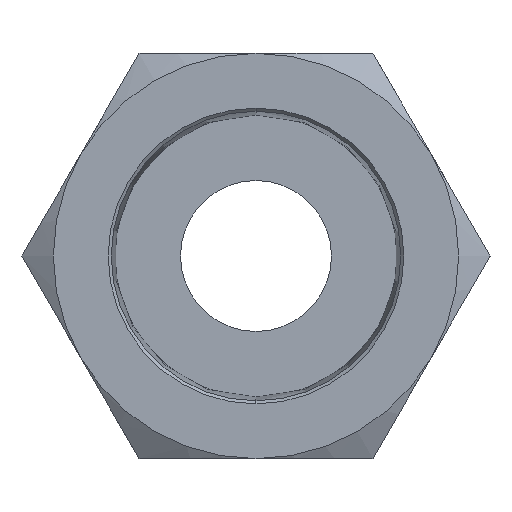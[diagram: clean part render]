
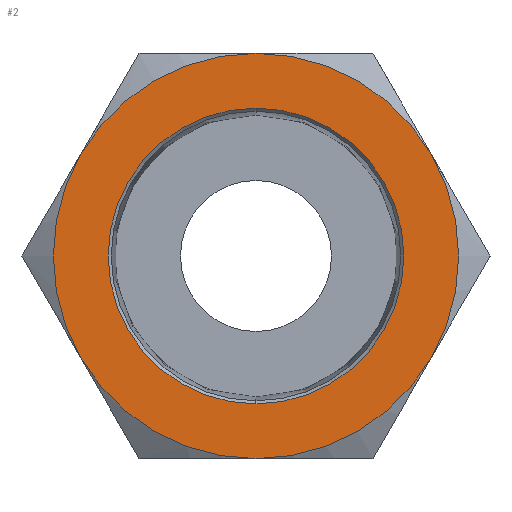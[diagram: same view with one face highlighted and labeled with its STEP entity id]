
A CAD part, left-side view. The second image highlights one B-rep face of the part: STEP entity #2.
In plain terms, the highlighted planar face has unit normal (-1, 0, 0).
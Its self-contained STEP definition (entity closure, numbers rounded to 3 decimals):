
#2 = ADVANCED_FACE ( 'NONE', ( #491, #490 ), #488, .F. ) ;
#3 = ORIENTED_EDGE ( 'NONE', *, *, #4, .F. ) ;
#4 = EDGE_CURVE ( 'NONE', #1562, #1559, #307, .T. ) ;
#5 = ORIENTED_EDGE ( 'NONE', *, *, #1561, .F. ) ;
#6 = EDGE_LOOP ( 'NONE', ( #7, #1516, #245, #247, #24, #26 ) ) ;
#7 = ORIENTED_EDGE ( 'NONE', *, *, #1515, .F. ) ;
#13 = EDGE_LOOP ( 'NONE', ( #3, #5 ) ) ;
#15 = VERTEX_POINT ( 'NONE', #294 ) ;
#24 = ORIENTED_EDGE ( 'NONE', *, *, #25, .T. ) ;
#25 = EDGE_CURVE ( 'NONE', #1624, #1530, #470, .T. ) ;
#26 = ORIENTED_EDGE ( 'NONE', *, *, #27, .F. ) ;
#27 = EDGE_CURVE ( 'NONE', #1678, #1530, #411, .T. ) ;
#245 = ORIENTED_EDGE ( 'NONE', *, *, #246, .F. ) ;
#246 = EDGE_CURVE ( 'NONE', #1523, #15, #961, .T. ) ;
#247 = ORIENTED_EDGE ( 'NONE', *, *, #248, .F. ) ;
#248 = EDGE_CURVE ( 'NONE', #1624, #1523, #844, .T. ) ;
#270 = VERTEX_POINT ( 'NONE', #933 ) ;
#294 = CARTESIAN_POINT ( 'NONE',  ( 0., -8.249, -4.762 ) ) ;
#303 = DIRECTION ( 'NONE',  ( 0., 0., 1. ) ) ;
#304 = DIRECTION ( 'NONE',  ( -1., 0., 0. ) ) ;
#305 = CARTESIAN_POINT ( 'NONE',  ( 0., 0., 0. ) ) ;
#306 = AXIS2_PLACEMENT_3D ( 'NONE', #305, #304, #303 ) ;
#307 = CIRCLE ( 'NONE', #306, 6.95 ) ;
#309 = DIRECTION ( 'NONE',  ( 0., 0., -1. ) ) ;
#310 = DIRECTION ( 'NONE',  ( 1., 0., 0. ) ) ;
#409 = DIRECTION ( 'NONE',  ( 1., 0., 0. ) ) ;
#410 = AXIS2_PLACEMENT_3D ( 'NONE', #469, #409, #467 ) ;
#411 = CIRCLE ( 'NONE', #410, 9.525 ) ;
#412 = DIRECTION ( 'NONE',  ( 0., 0., 1. ) ) ;
#413 = DIRECTION ( 'NONE',  ( -1., 0., 0. ) ) ;
#414 = CARTESIAN_POINT ( 'NONE',  ( 0., 0., 0. ) ) ;
#415 = AXIS2_PLACEMENT_3D ( 'NONE', #414, #413, #412 ) ;
#467 = DIRECTION ( 'NONE',  ( 0., 0., -1. ) ) ;
#469 = CARTESIAN_POINT ( 'NONE',  ( 0., 0., 0. ) ) ;
#470 = CIRCLE ( 'NONE', #415, 9.525 ) ;
#486 = AXIS2_PLACEMENT_3D ( 'NONE', #487, #310, #309 ) ;
#487 = CARTESIAN_POINT ( 'NONE',  ( 0., 10.999, 0. ) ) ;
#488 = PLANE ( 'NONE',  #486 ) ;
#490 = FACE_OUTER_BOUND ( 'NONE', #6, .T. ) ;
#491 = FACE_BOUND ( 'NONE', #13, .T. ) ;
#783 = CARTESIAN_POINT ( 'NONE',  ( 0., -8.249, 4.763 ) ) ;
#786 = DIRECTION ( 'NONE',  ( 0., 0., -1. ) ) ;
#787 = DIRECTION ( 'NONE',  ( 1., 0., 0. ) ) ;
#788 = CARTESIAN_POINT ( 'NONE',  ( 0., 0., 0. ) ) ;
#789 = AXIS2_PLACEMENT_3D ( 'NONE', #788, #787, #786 ) ;
#790 = CIRCLE ( 'NONE', #789, 9.525 ) ;
#791 = DIRECTION ( 'NONE',  ( 0., 0., -1. ) ) ;
#792 = DIRECTION ( 'NONE',  ( 1., 0., 0. ) ) ;
#793 = CARTESIAN_POINT ( 'NONE',  ( 0., 0., 0. ) ) ;
#794 = AXIS2_PLACEMENT_3D ( 'NONE', #793, #792, #791 ) ;
#795 = CIRCLE ( 'NONE', #794, 9.525 ) ;
#840 = DIRECTION ( 'NONE',  ( 0., 0., -1. ) ) ;
#841 = DIRECTION ( 'NONE',  ( 1., 0., 0. ) ) ;
#842 = CARTESIAN_POINT ( 'NONE',  ( 0., 0., 0. ) ) ;
#843 = AXIS2_PLACEMENT_3D ( 'NONE', #842, #841, #840 ) ;
#844 = CIRCLE ( 'NONE', #843, 9.525 ) ;
#845 = DIRECTION ( 'NONE',  ( 0., 0., -1. ) ) ;
#846 = DIRECTION ( 'NONE',  ( 1., 0., 0. ) ) ;
#923 = CARTESIAN_POINT ( 'NONE',  ( 0., 8.249, 4.762 ) ) ;
#933 = CARTESIAN_POINT ( 'NONE',  ( 0., 0., -9.525 ) ) ;
#959 = CARTESIAN_POINT ( 'NONE',  ( 0., 0., 0. ) ) ;
#960 = AXIS2_PLACEMENT_3D ( 'NONE', #959, #846, #845 ) ;
#961 = CIRCLE ( 'NONE', #960, 9.525 ) ;
#1198 = CARTESIAN_POINT ( 'NONE',  ( 0., 0., 9.525 ) ) ;
#1216 = CARTESIAN_POINT ( 'NONE',  ( 0., 0., 6.95 ) ) ;
#1217 = DIRECTION ( 'NONE',  ( 0., 0., 1. ) ) ;
#1218 = DIRECTION ( 'NONE',  ( -1., 0., 0. ) ) ;
#1219 = CARTESIAN_POINT ( 'NONE',  ( 0., 0., 0. ) ) ;
#1220 = AXIS2_PLACEMENT_3D ( 'NONE', #1219, #1218, #1217 ) ;
#1221 = CIRCLE ( 'NONE', #1220, 6.95 ) ;
#1222 = CARTESIAN_POINT ( 'NONE',  ( 0., 0., -6.95 ) ) ;
#1397 = CARTESIAN_POINT ( 'NONE',  ( 0., 8.249, -4.763 ) ) ;
#1515 = EDGE_CURVE ( 'NONE', #270, #1678, #795, .T. ) ;
#1516 = ORIENTED_EDGE ( 'NONE', *, *, #1517, .F. ) ;
#1517 = EDGE_CURVE ( 'NONE', #15, #270, #790, .T. ) ;
#1523 = VERTEX_POINT ( 'NONE', #783 ) ;
#1530 = VERTEX_POINT ( 'NONE', #923 ) ;
#1559 = VERTEX_POINT ( 'NONE', #1222 ) ;
#1561 = EDGE_CURVE ( 'NONE', #1559, #1562, #1221, .T. ) ;
#1562 = VERTEX_POINT ( 'NONE', #1216 ) ;
#1624 = VERTEX_POINT ( 'NONE', #1198 ) ;
#1678 = VERTEX_POINT ( 'NONE', #1397 ) ;
